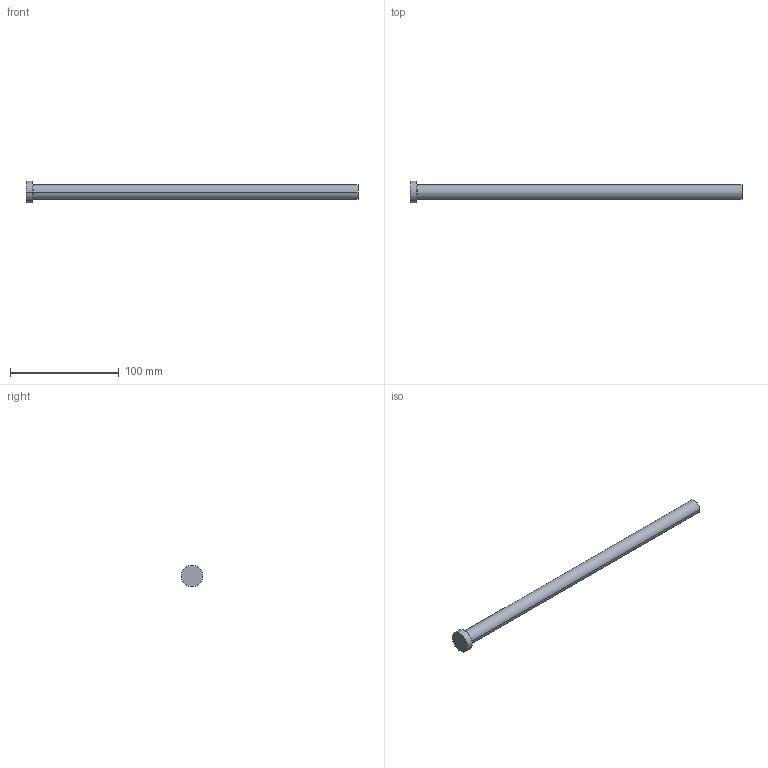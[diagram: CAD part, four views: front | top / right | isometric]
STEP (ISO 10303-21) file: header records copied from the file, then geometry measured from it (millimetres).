
FILE_DESCRIPTION (( 'STEP AP214' ), '1' );
FILE_NAME ('P34-12.STEP', '2020-03-12T11:51:30', ( '' ), ( '' ), 'SwSTEP 2.0', 'SolidWorks 2018', '' );
FILE_SCHEMA (( 'AUTOMOTIVE_DESIGN' ));
Length unit declared in the file: inch
Products named in the file (1): P34-12
Bounding box: 304.8 x 19.84 x 19.84 mm (x, y, z)
Volume: 44568.6 mm3; surface area: 13633.3 mm2
Topology: 1 solids, 1 shells, 13 faces, 24 edges, 14 vertices
Faces by surface type: cone 4, cylinder 4, plane 3, torus 2
Entity records: 366 total; most frequent: DIRECTION 68, CARTESIAN_POINT 52, ORIENTED_EDGE 48, AXIS2_PLACEMENT_3D 30, EDGE_CURVE 24, CIRCLE 16, EDGE_LOOP 14, VERTEX_POINT 14
